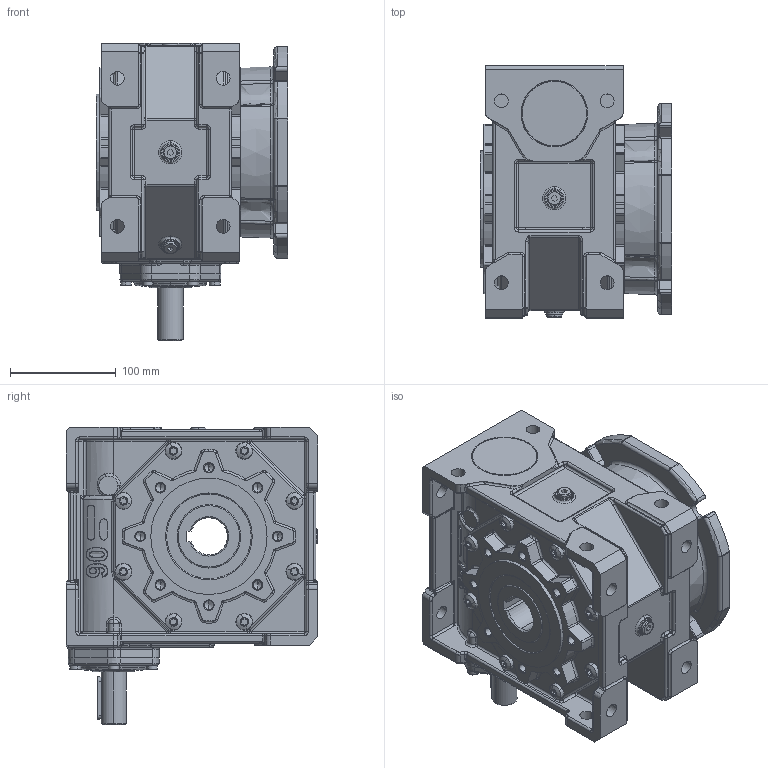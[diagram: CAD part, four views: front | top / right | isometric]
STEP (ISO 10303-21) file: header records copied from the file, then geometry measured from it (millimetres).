
FILE_DESCRIPTION (( 'STEP AP214' ), '1' );
FILE_NAME ('MKT90-FFL-Solid Shaft.STEP', '2006-05-10T10:44:53', ( '' ), ( '' ), 'SwSTEP 2.0', 'SolidWorks 2004146', '' );
FILE_SCHEMA (( 'AUTOMOTIVE_DESIGN' ));
Length unit declared in the file: millimetre
Products named in the file (6): Pøíruba FF MKT 90_Výchozí; Skrin MKT90_MKT90 SolidShaft; D6912_Šroub DIN 6912 - M10x25; Víèko RT80_Výchozí; MKT90-FFL-Solid Shaft; D6912_Šroub DIN 6912 - M6x25
Assembly tree (13 placements, depth 2):
  MKT90-FFL-Solid Shaft
    Víèko RT80_Výchozí
    D6912_Šroub DIN 6912 - M6x25  x6
    D6912_Šroub DIN 6912 - M10x25  x4
    Pøíruba FF MKT 90_Výchozí
    Skrin MKT90_MKT90 SolidShaft
Bounding box: 181 x 238 x 281 mm (x, y, z)
Volume: 5244763.6 mm3; surface area: 445015.7 mm2
Topology: 13 solids, 13 shells, 2684 faces, 6317 edges, 3561 vertices
Faces by surface type: cylinder 1028, plane 510, torus 392, bspline 324, cone 263, sphere 167
Entity records: 295088 total; most frequent: CARTESIAN_POINT 237238, DIRECTION 11680, ORIENTED_EDGE 11122, EDGE_CURVE 5561, AXIS2_PLACEMENT_3D 4857, VERTEX_POINT 3285, CIRCLE 2777, EDGE_LOOP 2544
